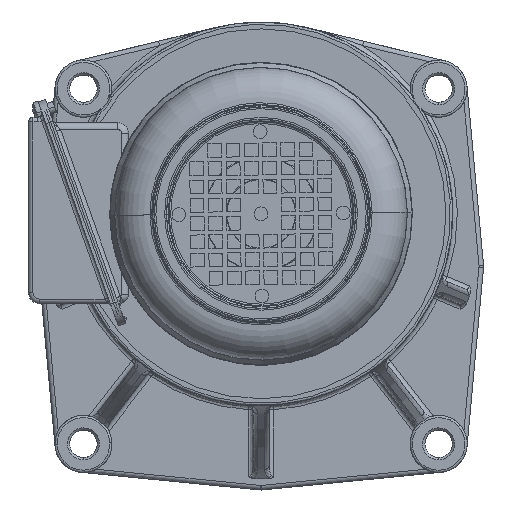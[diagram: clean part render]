
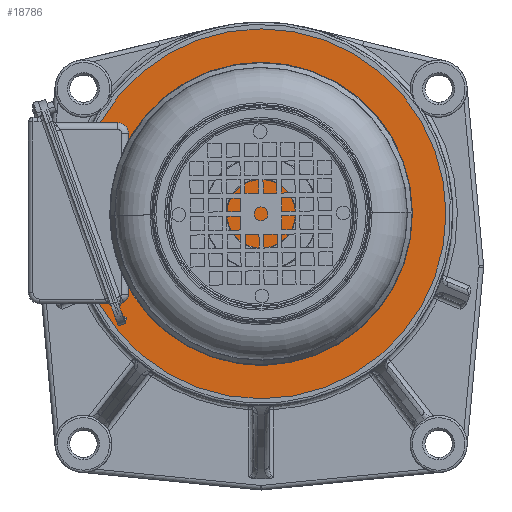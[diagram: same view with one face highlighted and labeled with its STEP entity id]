
A CAD part, front view. The second image highlights one B-rep face of the part: STEP entity #18786.
In plain terms, the highlighted planar face has unit normal (0, -1, 0).
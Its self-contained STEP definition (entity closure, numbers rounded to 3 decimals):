
#860 = FACE_OUTER_BOUND ( 'NONE', #26731, .T. ) ;
#6221 = VERTEX_POINT ( 'NONE', #22866 ) ;
#6356 = CARTESIAN_POINT ( 'NONE',  ( 108.52, 113.317, 0. ) ) ;
#9882 = DIRECTION ( 'NONE',  ( 0., -1., 0. ) ) ;
#11701 = DIRECTION ( 'NONE',  ( -1., 0., 0. ) ) ;
#11832 = AXIS2_PLACEMENT_3D ( 'NONE', #6356, #20756, #35099 ) ;
#15234 = PLANE ( 'NONE',  #26804 ) ;
#18786 = ADVANCED_FACE ( 'NONE', ( #860 ), #15234, .T. ) ;
#20021 = EDGE_CURVE ( 'NONE', #38425, #6221, #32163, .T. ) ;
#20756 = DIRECTION ( 'NONE',  ( 0., -1., 0. ) ) ;
#22866 = CARTESIAN_POINT ( 'NONE',  ( 108.52, 113.317, -81. ) ) ;
#24276 = DIRECTION ( 'NONE',  ( 1., 0., 0. ) ) ;
#26323 = AXIS2_PLACEMENT_3D ( 'NONE', #42140, #9882, #24276 ) ;
#26731 = EDGE_LOOP ( 'NONE', ( #45068, #27443 ) ) ;
#26804 = AXIS2_PLACEMENT_3D ( 'NONE', #29614, #43956, #11701 ) ;
#27443 = ORIENTED_EDGE ( 'NONE', *, *, #27950, .T. ) ;
#27950 = EDGE_CURVE ( 'NONE', #6221, #38425, #46608, .T. ) ;
#29614 = CARTESIAN_POINT ( 'NONE',  ( 108.52, 113.317, -23. ) ) ;
#32163 = CIRCLE ( 'NONE', #11832, 81. ) ;
#35099 = DIRECTION ( 'NONE',  ( 1., 0., 0. ) ) ;
#38425 = VERTEX_POINT ( 'NONE', #40160 ) ;
#40160 = CARTESIAN_POINT ( 'NONE',  ( 108.52, 113.317, 81. ) ) ;
#42140 = CARTESIAN_POINT ( 'NONE',  ( 108.52, 113.317, 0. ) ) ;
#43956 = DIRECTION ( 'NONE',  ( 0., -1., 0. ) ) ;
#45068 = ORIENTED_EDGE ( 'NONE', *, *, #20021, .T. ) ;
#46608 = CIRCLE ( 'NONE', #26323, 81. ) ;
